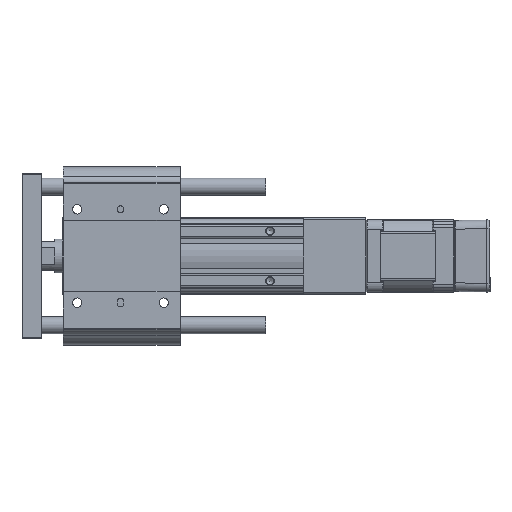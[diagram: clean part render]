
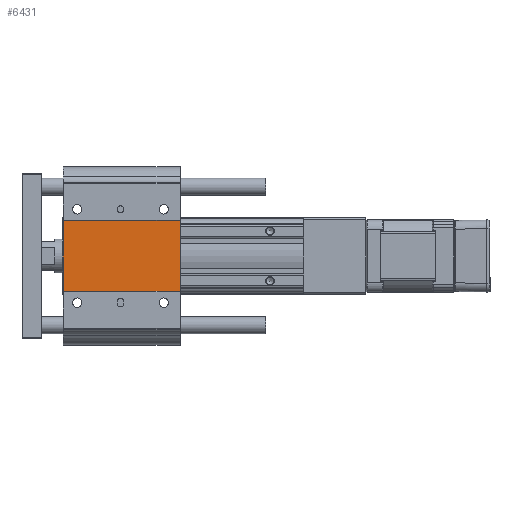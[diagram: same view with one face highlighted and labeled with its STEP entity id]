
A CAD part, front view. The second image highlights one B-rep face of the part: STEP entity #6431.
In plain terms, the highlighted planar face has unit normal (0, -1, 0).
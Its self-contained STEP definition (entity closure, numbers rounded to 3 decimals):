
#3956 = EDGE_LOOP ( 'NONE', ( #42485, #23182, #40639, #35330 ) ) ;
#5975 = CARTESIAN_POINT ( 'NONE',  ( -20.5, -30.5, -102.5 ) ) ;
#6431 = ADVANCED_FACE ( 'NONE', ( #14217 ), #23710, .T. ) ;
#8550 = EDGE_CURVE ( 'NONE', #14612, #25996, #18346, .T. ) ;
#9044 = VECTOR ( 'NONE', #9595, 1000. ) ;
#9272 = EDGE_CURVE ( 'NONE', #21810, #33674, #26796, .T. ) ;
#9595 = DIRECTION ( 'NONE',  ( 0., 0., 1. ) ) ;
#11158 = DIRECTION ( 'NONE',  ( 0., -1., 0. ) ) ;
#12087 = CARTESIAN_POINT ( 'NONE',  ( -20.5, -30.5, -0.5 ) ) ;
#12238 = LINE ( 'NONE', #5975, #9044 ) ;
#12487 = CARTESIAN_POINT ( 'NONE',  ( -20.5, -30.5, -0.5 ) ) ;
#14217 = FACE_OUTER_BOUND ( 'NONE', #3956, .T. ) ;
#14612 = VERTEX_POINT ( 'NONE', #12487 ) ;
#14639 = CARTESIAN_POINT ( 'NONE',  ( -20.5, -30.5, -102.5 ) ) ;
#15093 = DIRECTION ( 'NONE',  ( 1., 0., 0. ) ) ;
#16211 = VECTOR ( 'NONE', #28380, 1000. ) ;
#18346 = LINE ( 'NONE', #12087, #36856 ) ;
#21810 = VERTEX_POINT ( 'NONE', #25084 ) ;
#23065 = EDGE_CURVE ( 'NONE', #21810, #14612, #12238, .T. ) ;
#23182 = ORIENTED_EDGE ( 'NONE', *, *, #23065, .F. ) ;
#23710 = PLANE ( 'NONE',  #26879 ) ;
#24138 = DIRECTION ( 'NONE',  ( 0., 0., -1. ) ) ;
#25084 = CARTESIAN_POINT ( 'NONE',  ( -20.5, -30.5, -68. ) ) ;
#25996 = VERTEX_POINT ( 'NONE', #28171 ) ;
#26796 = LINE ( 'NONE', #27643, #35904 ) ;
#26879 = AXIS2_PLACEMENT_3D ( 'NONE', #14639, #11158, #24138 ) ;
#27433 = CARTESIAN_POINT ( 'NONE',  ( 20.5, -30.5, -68. ) ) ;
#27643 = CARTESIAN_POINT ( 'NONE',  ( -20.5, -30.5, -68. ) ) ;
#28171 = CARTESIAN_POINT ( 'NONE',  ( 20.5, -30.5, -0.5 ) ) ;
#28380 = DIRECTION ( 'NONE',  ( 0., 0., 1. ) ) ;
#33674 = VERTEX_POINT ( 'NONE', #27433 ) ;
#34846 = CARTESIAN_POINT ( 'NONE',  ( 20.5, -30.5, -102.5 ) ) ;
#35027 = LINE ( 'NONE', #34846, #16211 ) ;
#35330 = ORIENTED_EDGE ( 'NONE', *, *, #41178, .T. ) ;
#35904 = VECTOR ( 'NONE', #40052, 1000. ) ;
#36856 = VECTOR ( 'NONE', #15093, 1000. ) ;
#40052 = DIRECTION ( 'NONE',  ( 1., 0., 0. ) ) ;
#40639 = ORIENTED_EDGE ( 'NONE', *, *, #9272, .T. ) ;
#41178 = EDGE_CURVE ( 'NONE', #33674, #25996, #35027, .T. ) ;
#42485 = ORIENTED_EDGE ( 'NONE', *, *, #8550, .F. ) ;
